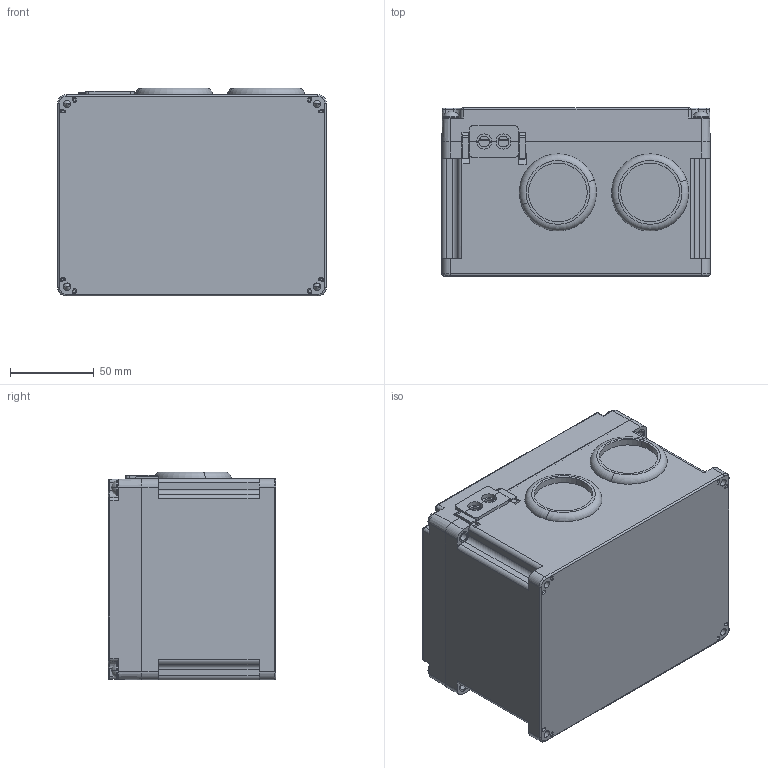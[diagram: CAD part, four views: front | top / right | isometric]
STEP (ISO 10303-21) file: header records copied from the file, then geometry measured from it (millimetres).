
FILE_DESCRIPTION((''),'2;1');
FILE_NAME('ASM0002_ASM','2026-05-14T17:52:16',('Administrator'),(''),'CREO PARAMETRIC BY PTC INC, 2022073','CREO PARAMETRIC BY PTC INC, 2022073','');
FILE_SCHEMA(('CONFIG_CONTROL_DESIGN'));
Length unit declared in the file: millimetre
Products named in the file (7): BOX; MX_C_2; M3_6; MF; MFQ_1; MF_3; ASM0002_ASM
Assembly tree (11 placements, depth 2):
  ASM0002_ASM
    BOX
    MX_C_2
    M3_6  x4
    MF  x2
    MFQ_1
    MF_3  x2
Bounding box: 160 x 100 x 124 mm (x, y, z)
Volume: 292503.3 mm3; surface area: 229192.2 mm2
Topology: 18 solids, 18 shells, 1389 faces, 3704 edges, 2396 vertices
Faces by surface type: plane 764, cylinder 325, cone 140, torus 78, bspline 66, sphere 16
Entity records: 43362 total; most frequent: CARTESIAN_POINT 10922, ORIENTED_EDGE 6944, DIRECTION 6427, EDGE_CURVE 3472, VECTOR 2303, LINE 2303, VERTEX_POINT 2258, AXIS2_PLACEMENT_3D 2062
